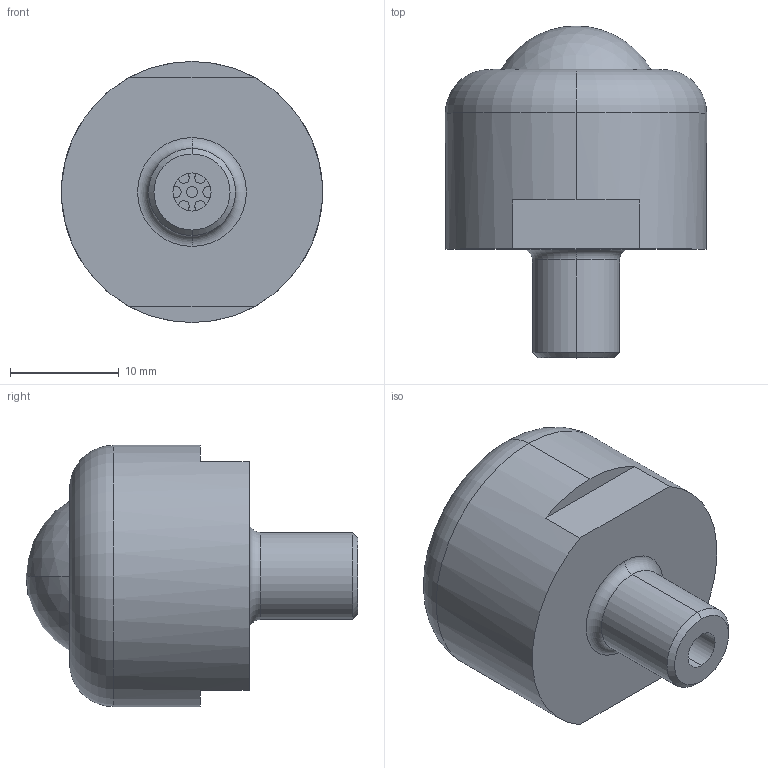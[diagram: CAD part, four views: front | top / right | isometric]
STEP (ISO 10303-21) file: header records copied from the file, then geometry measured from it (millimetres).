
FILE_DESCRIPTION (( 'STEP AP203' ), '1' );
FILE_NAME ('PV20BH.STEP', '2015-12-03T05:25:09', ( '' ), ( '' ), 'SwSTEP 2.0', 'SolidWorks 2013', '' );
FILE_SCHEMA (( 'CONFIG_CONTROL_DESIGN' ));
Length unit declared in the file: millimetre
Products named in the file (1): PV20BH
Bounding box: 24 x 30.5 x 24 mm (x, y, z)
Volume: 7832.7 mm3; surface area: 2480.1 mm2
Topology: 1 solids, 1 shells, 59 faces, 122 edges, 75 vertices
Faces by surface type: cylinder 28, plane 21, cone 4, torus 4, sphere 2
Entity records: 1715 total; most frequent: CARTESIAN_POINT 327, DIRECTION 314, ORIENTED_EDGE 244, AXIS2_PLACEMENT_3D 140, EDGE_CURVE 122, CIRCLE 80, VERTEX_POINT 75, EDGE_LOOP 69
